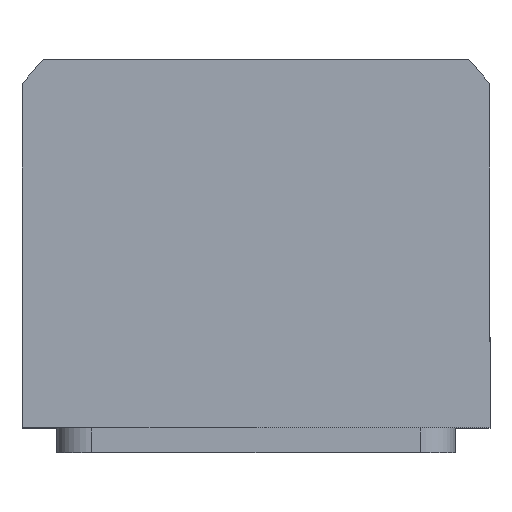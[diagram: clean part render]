
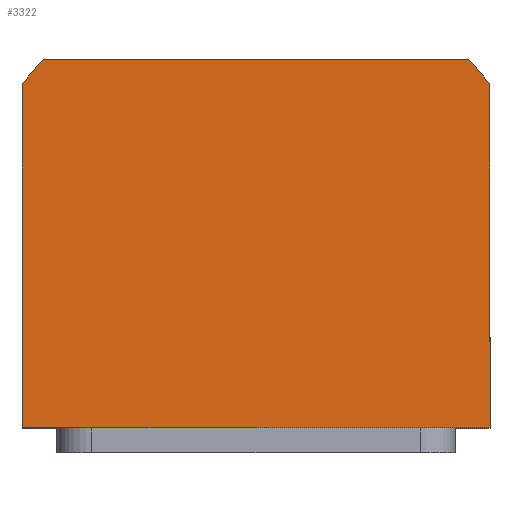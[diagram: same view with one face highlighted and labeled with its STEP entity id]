
A CAD part, top view. The second image highlights one B-rep face of the part: STEP entity #3322.
In plain terms, the highlighted planar face has unit normal (0, 0, 1).
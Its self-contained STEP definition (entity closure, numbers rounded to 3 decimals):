
#5 = DIRECTION ( 'NONE',  ( 1., 0., 0. ) ) ;
#454 = LINE ( 'NONE', #5218, #3636 ) ;
#983 = DIRECTION ( 'NONE',  ( 0., 0., 1. ) ) ;
#1199 = EDGE_LOOP ( 'NONE', ( #6517, #1357, #4635, #7193, #3142, #6207 ) ) ;
#1357 = ORIENTED_EDGE ( 'NONE', *, *, #7854, .T. ) ;
#1460 = VECTOR ( 'NONE', #4708, 1000. ) ;
#1976 = VERTEX_POINT ( 'NONE', #6908 ) ;
#2085 = DIRECTION ( 'NONE',  ( 1., 0., 0. ) ) ;
#2365 = VECTOR ( 'NONE', #6339, 1000. ) ;
#2724 = AXIS2_PLACEMENT_3D ( 'NONE', #6628, #983, #5 ) ;
#2802 = VERTEX_POINT ( 'NONE', #6932 ) ;
#3013 = CARTESIAN_POINT ( 'NONE',  ( 0., 0., 47.5 ) ) ;
#3142 = ORIENTED_EDGE ( 'NONE', *, *, #8753, .T. ) ;
#3322 = ADVANCED_FACE ( 'NONE', ( #9333 ), #4602, .T. ) ;
#3503 = DIRECTION ( 'NONE',  ( 0., 1., 0. ) ) ;
#3543 = VERTEX_POINT ( 'NONE', #10185 ) ;
#3615 = DIRECTION ( 'NONE',  ( 1., 0., 0. ) ) ;
#3636 = VECTOR ( 'NONE', #3615, 1000. ) ;
#3737 = EDGE_CURVE ( 'NONE', #2802, #3866, #9992, .T. ) ;
#3866 = VERTEX_POINT ( 'NONE', #6297 ) ;
#4055 = AXIS2_PLACEMENT_3D ( 'NONE', #10508, #9641, #6277 ) ;
#4602 = PLANE ( 'NONE',  #4055 ) ;
#4635 = ORIENTED_EDGE ( 'NONE', *, *, #6770, .T. ) ;
#4708 = DIRECTION ( 'NONE',  ( -1., 0., 0. ) ) ;
#5218 = CARTESIAN_POINT ( 'NONE',  ( 47., -34., 47.5 ) ) ;
#6207 = ORIENTED_EDGE ( 'NONE', *, *, #7067, .T. ) ;
#6277 = DIRECTION ( 'NONE',  ( 1., 0., 0. ) ) ;
#6297 = CARTESIAN_POINT ( 'NONE',  ( -42.688, 40., 47.5 ) ) ;
#6339 = DIRECTION ( 'NONE',  ( 0., -1., 0. ) ) ;
#6517 = ORIENTED_EDGE ( 'NONE', *, *, #10300, .T. ) ;
#6596 = CIRCLE ( 'NONE', #2724, 58.5 ) ;
#6628 = CARTESIAN_POINT ( 'NONE',  ( 0., 0., 47.5 ) ) ;
#6770 = EDGE_CURVE ( 'NONE', #3543, #2802, #9302, .T. ) ;
#6874 = LINE ( 'NONE', #9821, #2365 ) ;
#6908 = CARTESIAN_POINT ( 'NONE',  ( -47., -34., 47.5 ) ) ;
#6932 = CARTESIAN_POINT ( 'NONE',  ( 42.688, 40., 47.5 ) ) ;
#7067 = EDGE_CURVE ( 'NONE', #9021, #1976, #6874, .T. ) ;
#7193 = ORIENTED_EDGE ( 'NONE', *, *, #3737, .T. ) ;
#7216 = DIRECTION ( 'NONE',  ( 0., 0., 1. ) ) ;
#7854 = EDGE_CURVE ( 'NONE', #9650, #3543, #10227, .T. ) ;
#7937 = CARTESIAN_POINT ( 'NONE',  ( 47., -34., 47.5 ) ) ;
#8063 = CARTESIAN_POINT ( 'NONE',  ( -42.688, 40., 47.5 ) ) ;
#8753 = EDGE_CURVE ( 'NONE', #3866, #9021, #6596, .T. ) ;
#9021 = VERTEX_POINT ( 'NONE', #9761 ) ;
#9194 = AXIS2_PLACEMENT_3D ( 'NONE', #3013, #7216, #2085 ) ;
#9302 = CIRCLE ( 'NONE', #9194, 58.5 ) ;
#9333 = FACE_OUTER_BOUND ( 'NONE', #1199, .T. ) ;
#9396 = CARTESIAN_POINT ( 'NONE',  ( 47., 34.832, 47.5 ) ) ;
#9412 = VECTOR ( 'NONE', #3503, 1000. ) ;
#9641 = DIRECTION ( 'NONE',  ( 0., 0., 1. ) ) ;
#9650 = VERTEX_POINT ( 'NONE', #7937 ) ;
#9761 = CARTESIAN_POINT ( 'NONE',  ( -47., 34.832, 47.5 ) ) ;
#9821 = CARTESIAN_POINT ( 'NONE',  ( -47., -34., 47.5 ) ) ;
#9992 = LINE ( 'NONE', #8063, #1460 ) ;
#10185 = CARTESIAN_POINT ( 'NONE',  ( 47., 34.832, 47.5 ) ) ;
#10227 = LINE ( 'NONE', #9396, #9412 ) ;
#10300 = EDGE_CURVE ( 'NONE', #1976, #9650, #454, .T. ) ;
#10508 = CARTESIAN_POINT ( 'NONE',  ( 0., 0., 47.5 ) ) ;
